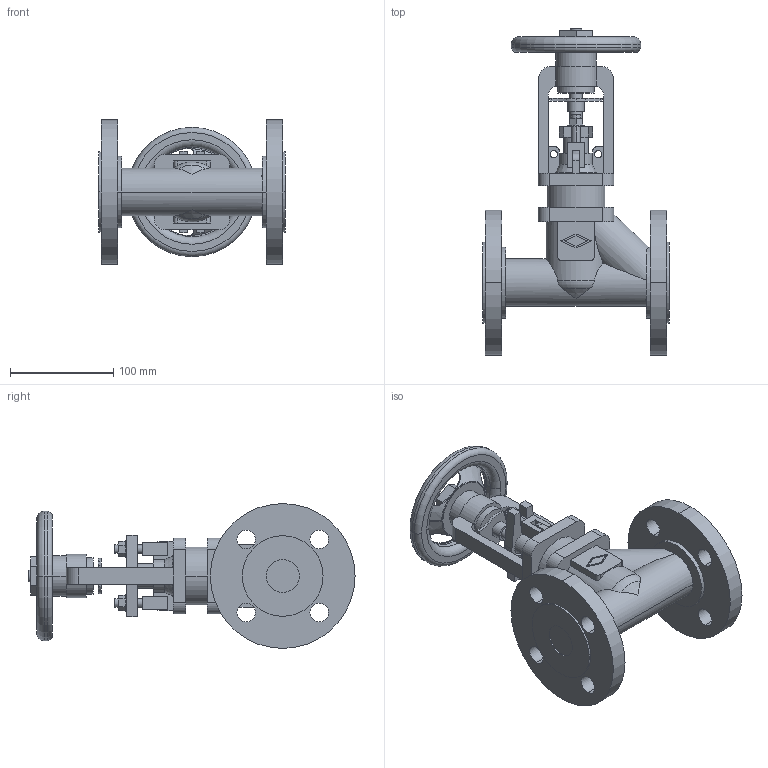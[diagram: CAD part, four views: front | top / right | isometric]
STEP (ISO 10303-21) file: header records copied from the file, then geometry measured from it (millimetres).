
FILE_DESCRIPTION(('OneSpaceDesigner STEP Export'),'2;1');
FILE_NAME('c000004281.stp','2010-05-05T10:04:20',(''),(''),'OneSpace Designer STEP processor for AP214 (Solid Model)','OneSpace Modeling 15.50B 03-Nov-2007 (C) CoCreate Software GmbH','');
FILE_SCHEMA(('AUTOMOTIVE_DESIGN { 1 0 10303 214 1 1 1 1 }'));
Length unit declared in the file: millimetre
Products named in the file (1): 1
Bounding box: 180 x 315.5 x 140 mm (x, y, z)
Volume: 1356585 mm3; surface area: 196726.8 mm2
Topology: 1 solids, 1 shells, 298 faces, 805 edges, 532 vertices
Faces by surface type: plane 147, cylinder 123, torus 16, cone 12
Entity records: 11945 total; most frequent: CARTESIAN_POINT 2346, ORIENTED_EDGE 1610, DIRECTION 1367, EDGE_CURVE 805, VERTEX_POINT 532, AXIS2_PLACEMENT_3D 466, VECTOR 435, LINE 435
